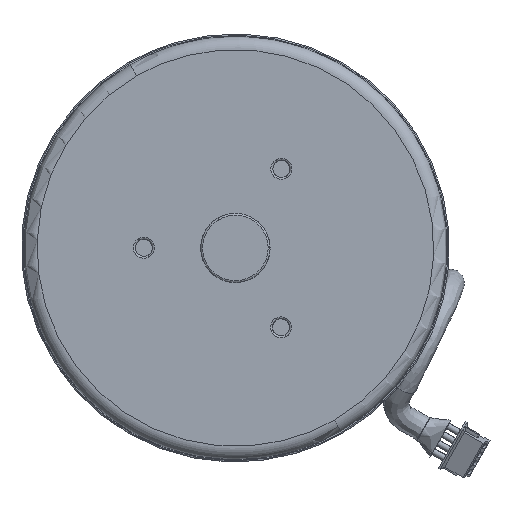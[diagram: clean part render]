
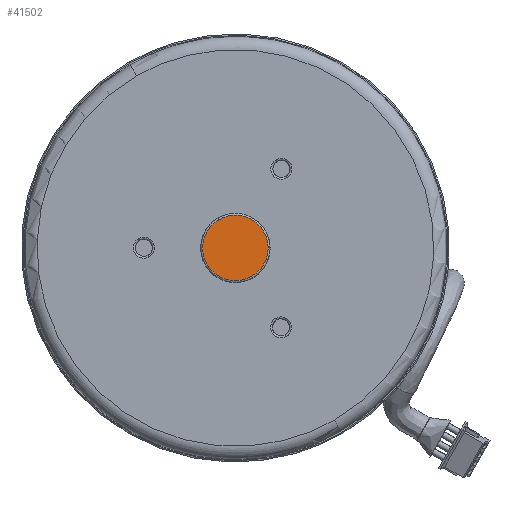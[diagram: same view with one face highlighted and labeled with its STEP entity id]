
A CAD part, front view. The second image highlights one B-rep face of the part: STEP entity #41502.
In plain terms, the highlighted planar face has unit normal (0, -1, 0).
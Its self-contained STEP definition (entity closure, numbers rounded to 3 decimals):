
#1669 = CARTESIAN_POINT ( 'NONE',  ( -2.49, -6.1, 4.336 ) ) ;
#2104 = B_SPLINE_CURVE_WITH_KNOTS ( 'NONE', 3,
 ( #51711, #36802, #90371, #91033, #4916, #82897, #28322, #20166, #43610, #36479, #4597, #52390, #35808, #59533, #82243, #12375, #5238, #27673 ),
 .UNSPECIFIED., .F., .F.,
 ( 4, 2, 2, 2, 2, 2, 2, 2, 4 ),
 ( 0., 0.125, 0.25, 0.375, 0.5, 0.625, 0.75, 0.875, 1. ),
 .UNSPECIFIED. ) ;
#3057 = VERTEX_POINT ( 'NONE', #88699 ) ;
#3564 = CARTESIAN_POINT ( 'NONE',  ( 4.997, -6.1, -0.674 ) ) ;
#3897 = AXIS2_PLACEMENT_3D ( 'NONE', #98737, #90247, #60091 ) ;
#3905 = CARTESIAN_POINT ( 'NONE',  ( 1.938, -6.1, 4.656 ) ) ;
#4240 = CARTESIAN_POINT ( 'NONE',  ( 2.535, -6.1, 4.359 ) ) ;
#4574 = CARTESIAN_POINT ( 'NONE',  ( 3.057, -6.1, -4.01 ) ) ;
#4597 = CARTESIAN_POINT ( 'NONE',  ( -4.875, -6.1, -1.29 ) ) ;
#4916 = CARTESIAN_POINT ( 'NONE',  ( -0.674, -6.1, -4.997 ) ) ;
#5238 = CARTESIAN_POINT ( 'NONE',  ( -3.057, -6.1, 4.01 ) ) ;
#11692 = CARTESIAN_POINT ( 'NONE',  ( 5.043, -6.1, -0.008 ) ) ;
#11887 = EDGE_CURVE ( 'NONE', #3057, #59799, #2104, .T. ) ;
#12375 = CARTESIAN_POINT ( 'NONE',  ( -3.56, -6.1, 3.572 ) ) ;
#13991 = EDGE_LOOP ( 'NONE', ( #45874, #94722 ) ) ;
#17045 = B_SPLINE_CURVE_WITH_KNOTS ( 'NONE', 3,
 ( #66972, #96838, #51360, #42923, #42595, #3905, #4240, #43245, #74139, #58202, #26995, #11692, #3564, #96495, #74795, #20467, #4574, #50387 ),
 .UNSPECIFIED., .F., .F.,
 ( 4, 2, 2, 2, 2, 2, 2, 2, 4 ),
 ( 0., 0.125, 0.25, 0.375, 0.5, 0.625, 0.75, 0.875, 1. ),
 .UNSPECIFIED. ) ;
#20166 = CARTESIAN_POINT ( 'NONE',  ( -3.572, -6.1, -3.56 ) ) ;
#20467 = CARTESIAN_POINT ( 'NONE',  ( 3.56, -6.1, -3.572 ) ) ;
#25127 = EDGE_CURVE ( 'NONE', #59799, #3057, #17045, .T. ) ;
#26995 = CARTESIAN_POINT ( 'NONE',  ( 4.875, -6.1, 1.29 ) ) ;
#27673 = CARTESIAN_POINT ( 'NONE',  ( -2.49, -6.1, 4.336 ) ) ;
#28322 = CARTESIAN_POINT ( 'NONE',  ( -2.535, -6.1, -4.359 ) ) ;
#35808 = CARTESIAN_POINT ( 'NONE',  ( -4.997, -6.1, 0.674 ) ) ;
#36479 = CARTESIAN_POINT ( 'NONE',  ( -4.662, -6.1, -1.922 ) ) ;
#36802 = CARTESIAN_POINT ( 'NONE',  ( 1.922, -6.1, -4.662 ) ) ;
#41502 = ADVANCED_FACE ( 'NONE', ( #57135 ), #82138, .T. ) ;
#42595 = CARTESIAN_POINT ( 'NONE',  ( 0.674, -6.1, 4.997 ) ) ;
#42923 = CARTESIAN_POINT ( 'NONE',  ( 0.008, -6.1, 5.043 ) ) ;
#43245 = CARTESIAN_POINT ( 'NONE',  ( 3.572, -6.1, 3.56 ) ) ;
#43610 = CARTESIAN_POINT ( 'NONE',  ( -4.01, -6.1, -3.057 ) ) ;
#45874 = ORIENTED_EDGE ( 'NONE', *, *, #11887, .F. ) ;
#50387 = CARTESIAN_POINT ( 'NONE',  ( 2.49, -6.1, -4.336 ) ) ;
#51360 = CARTESIAN_POINT ( 'NONE',  ( -1.29, -6.1, 4.875 ) ) ;
#51711 = CARTESIAN_POINT ( 'NONE',  ( 2.49, -6.1, -4.336 ) ) ;
#52390 = CARTESIAN_POINT ( 'NONE',  ( -5.043, -6.1, 0.008 ) ) ;
#57135 = FACE_OUTER_BOUND ( 'NONE', #13991, .T. ) ;
#58202 = CARTESIAN_POINT ( 'NONE',  ( 4.662, -6.1, 1.922 ) ) ;
#59533 = CARTESIAN_POINT ( 'NONE',  ( -4.656, -6.1, 1.938 ) ) ;
#59799 = VERTEX_POINT ( 'NONE', #1669 ) ;
#60091 = DIRECTION ( 'NONE',  ( 0., 0., -1. ) ) ;
#66972 = CARTESIAN_POINT ( 'NONE',  ( -2.49, -6.1, 4.336 ) ) ;
#74139 = CARTESIAN_POINT ( 'NONE',  ( 4.01, -6.1, 3.057 ) ) ;
#74795 = CARTESIAN_POINT ( 'NONE',  ( 4.359, -6.1, -2.535 ) ) ;
#82138 = PLANE ( 'NONE',  #3897 ) ;
#82243 = CARTESIAN_POINT ( 'NONE',  ( -4.359, -6.1, 2.535 ) ) ;
#82897 = CARTESIAN_POINT ( 'NONE',  ( -1.938, -6.1, -4.656 ) ) ;
#88699 = CARTESIAN_POINT ( 'NONE',  ( 2.49, -6.1, -4.336 ) ) ;
#90247 = DIRECTION ( 'NONE',  ( 0., -1., 0. ) ) ;
#90371 = CARTESIAN_POINT ( 'NONE',  ( 1.29, -6.1, -4.875 ) ) ;
#91033 = CARTESIAN_POINT ( 'NONE',  ( -0.008, -6.1, -5.043 ) ) ;
#94722 = ORIENTED_EDGE ( 'NONE', *, *, #25127, .F. ) ;
#96495 = CARTESIAN_POINT ( 'NONE',  ( 4.656, -6.1, -1.938 ) ) ;
#96838 = CARTESIAN_POINT ( 'NONE',  ( -1.922, -6.1, 4.662 ) ) ;
#98737 = CARTESIAN_POINT ( 'NONE',  ( 0., -6.1, 0. ) ) ;
